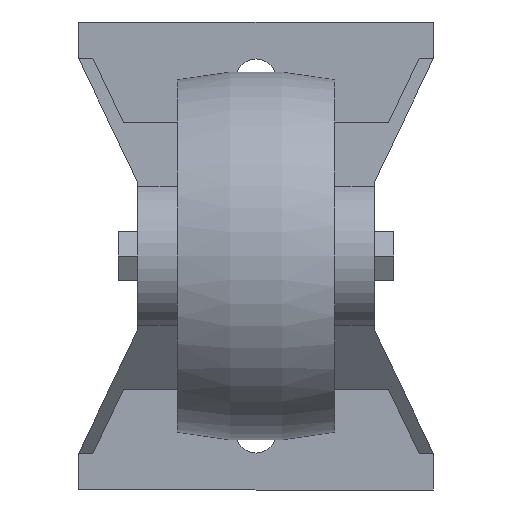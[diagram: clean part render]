
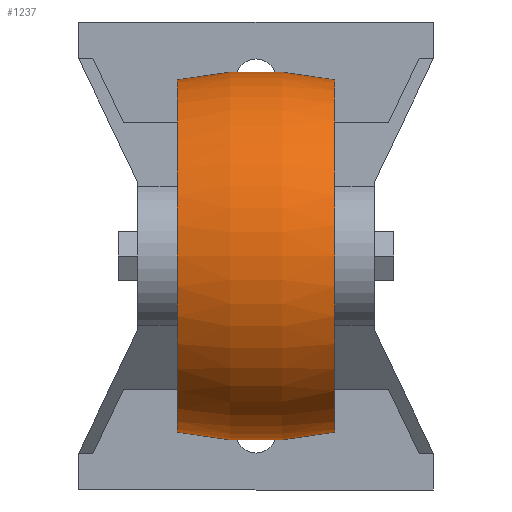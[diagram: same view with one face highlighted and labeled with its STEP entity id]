
A CAD part, front view. The second image highlights one B-rep face of the part: STEP entity #1237.
In plain terms, the highlighted toroidal (fillet/blend) face has major radius 37.5 mm and minor radius 75 mm.
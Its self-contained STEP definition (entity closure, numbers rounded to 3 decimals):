
#7 = DIRECTION ( 'NONE',  ( 0., 1., 0. ) ) ;
#14 = CIRCLE ( 'NONE', #868, 35.773 ) ;
#86 = AXIS2_PLACEMENT_3D ( 'NONE', #1253, #1283, #397 ) ;
#118 = ORIENTED_EDGE ( 'NONE', *, *, #1343, .T. ) ;
#189 = CARTESIAN_POINT ( 'NONE',  ( 16., -65.5, 35.773 ) ) ;
#194 = VERTEX_POINT ( 'NONE', #1144 ) ;
#209 = EDGE_CURVE ( 'NONE', #354, #194, #1003, .T. ) ;
#271 = ORIENTED_EDGE ( 'NONE', *, *, #209, .F. ) ;
#307 = TOROIDAL_SURFACE ( 'NONE', #622, -37.5, 75. ) ;
#354 = VERTEX_POINT ( 'NONE', #1086 ) ;
#397 = DIRECTION ( 'NONE',  ( 0., 0., 1. ) ) ;
#434 = AXIS2_PLACEMENT_3D ( 'NONE', #546, #1178, #1275 ) ;
#440 = EDGE_CURVE ( 'NONE', #194, #1511, #14, .T. ) ;
#458 = AXIS2_PLACEMENT_3D ( 'NONE', #1402, #7, #901 ) ;
#546 = CARTESIAN_POINT ( 'NONE',  ( 0., -65.5, -37.5 ) ) ;
#622 = AXIS2_PLACEMENT_3D ( 'NONE', #973, #1090, #1216 ) ;
#813 = ORIENTED_EDGE ( 'NONE', *, *, #440, .F. ) ;
#825 = FACE_OUTER_BOUND ( 'NONE', #1282, .T. ) ;
#868 = AXIS2_PLACEMENT_3D ( 'NONE', #1011, #1351, #1503 ) ;
#901 = DIRECTION ( 'NONE',  ( 0., 0., 1. ) ) ;
#973 = CARTESIAN_POINT ( 'NONE',  ( 0., -65.5, 0. ) ) ;
#1003 = CIRCLE ( 'NONE', #458, 75. ) ;
#1011 = CARTESIAN_POINT ( 'NONE',  ( -16., -65.5, 0. ) ) ;
#1082 = EDGE_CURVE ( 'NONE', #354, #1320, #1170, .T. ) ;
#1086 = CARTESIAN_POINT ( 'NONE',  ( 16., -65.5, -35.773 ) ) ;
#1090 = DIRECTION ( 'NONE',  ( -1., 0., 0. ) ) ;
#1144 = CARTESIAN_POINT ( 'NONE',  ( -16., -65.5, -35.773 ) ) ;
#1170 = CIRCLE ( 'NONE', #86, 35.773 ) ;
#1178 = DIRECTION ( 'NONE',  ( 0., -1., 0. ) ) ;
#1216 = DIRECTION ( 'NONE',  ( 0., 0., 1. ) ) ;
#1237 = ADVANCED_FACE ( 'NONE', ( #825 ), #307, .T. ) ;
#1245 = CARTESIAN_POINT ( 'NONE',  ( -16., -65.5, 35.773 ) ) ;
#1253 = CARTESIAN_POINT ( 'NONE',  ( 16., -65.5, 0. ) ) ;
#1275 = DIRECTION ( 'NONE',  ( 0., 0., -1. ) ) ;
#1282 = EDGE_LOOP ( 'NONE', ( #271, #1335, #118, #813 ) ) ;
#1283 = DIRECTION ( 'NONE',  ( -1., 0., 0. ) ) ;
#1320 = VERTEX_POINT ( 'NONE', #189 ) ;
#1335 = ORIENTED_EDGE ( 'NONE', *, *, #1082, .T. ) ;
#1343 = EDGE_CURVE ( 'NONE', #1320, #1511, #1413, .T. ) ;
#1351 = DIRECTION ( 'NONE',  ( -1., 0., 0. ) ) ;
#1402 = CARTESIAN_POINT ( 'NONE',  ( 0., -65.5, 37.5 ) ) ;
#1413 = CIRCLE ( 'NONE', #434, 75. ) ;
#1503 = DIRECTION ( 'NONE',  ( 0., 0., 1. ) ) ;
#1511 = VERTEX_POINT ( 'NONE', #1245 ) ;
